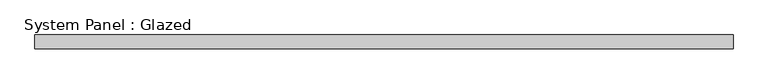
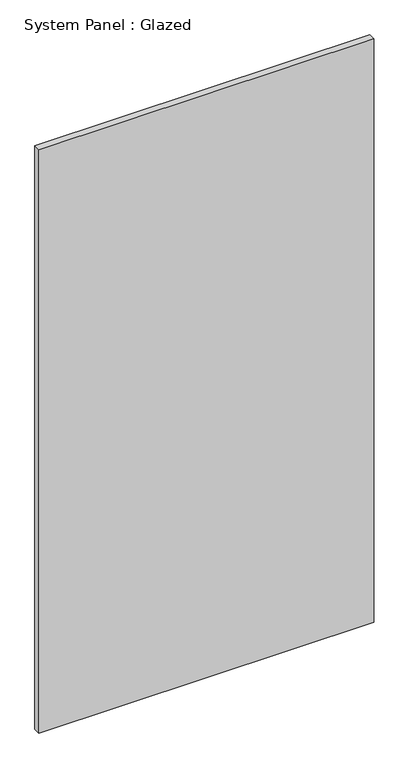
"""IFC4 building model written with IfcOpenShell, lengths in millimetres: plate geometry, System Panel : Glazed."""

from ifc_helpers import new_model, si_unit, origin, origin_with_axes, place, context, project, spatial, polyline, outline, extrude, source, transform, mapped, element, save


def system_panel_glazed_f465e8e4(model_context):
    return source(origin(), model_context, "Body", "SweptSolid", [
        extrude(outline(polyline([(631.2500001, 24.5), (-631.2500001, 24.5), (-631.2500001, 49.5), (631.2500001, 49.5), (631.2500001, 24.5)])), origin_with_axes(), (0.0, 0.0, 1.0), 2325.0),
    ])


if __name__ == "__main__":
    model = new_model("IFC4")
    model_context = context("Model", 3, world=origin())
    ifc_project = project(units=[si_unit("LENGTHUNIT", "METRE", prefix="MILLI")], contexts=[model_context])
    site = spatial("IfcSite", under=ifc_project)
    building = spatial("IfcBuilding", under=site)
    placement = place(None, origin())
    system_panel_glazed_shape = system_panel_glazed_f465e8e4(model_context)
    element("IfcPlate", 1, ObjectType="System Panel : Glazed", at=placement, inside=building, context=model_context, shape_type="MappedRepresentation", body=[
        mapped(system_panel_glazed_shape, transform((0.0, 0.0, 0.0), x_axis=(1.0, 0.0, 0.0), y_axis=(0.0, 1.0, 0.0), z_axis=(0.0, 0.0, 1.0))),
    ])
    save(model, "model.ifc")
